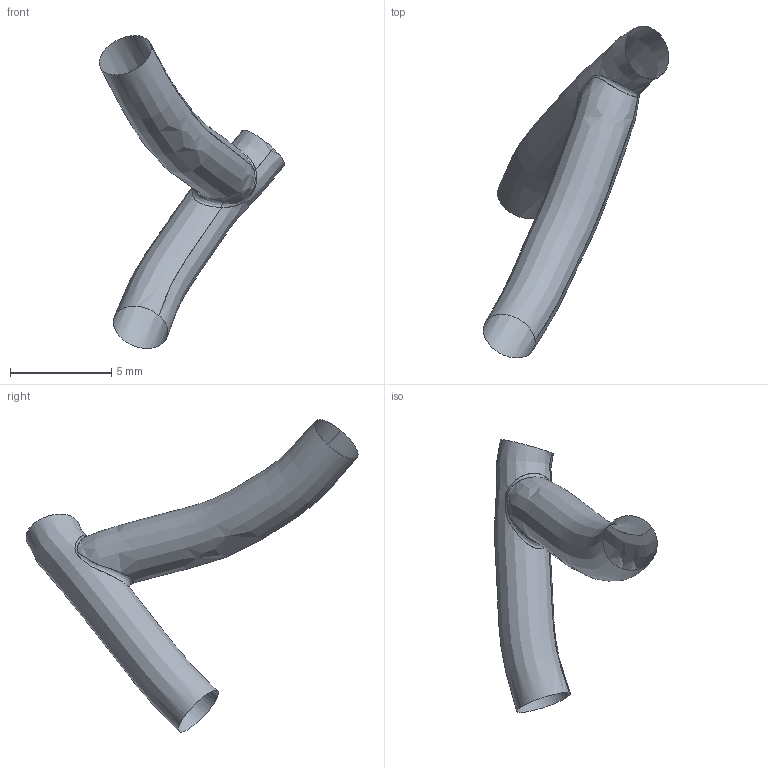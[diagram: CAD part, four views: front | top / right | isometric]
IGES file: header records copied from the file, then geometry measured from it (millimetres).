
Global section: file name: C:\Documents and Settings\Administrator\Desktop\FDA-Pig\Domestic LCA\Pig_000138\lcx.es.igs; native system: Rhinoceros ( May 19 2006 ); preprocessor: Trout Lake IGES 012 May 19 2006; date: 111205.184650; units: centimetre
Bounding box: 9.14 x 16.36 x 15.41 mm (x, y, z)
Surface area: 233.3 mm2 (no closed solid volume)
Topology: 0 solids, 0 shells, 5 faces, 76 edges, 75 vertices
Faces by surface type: bspline 5
